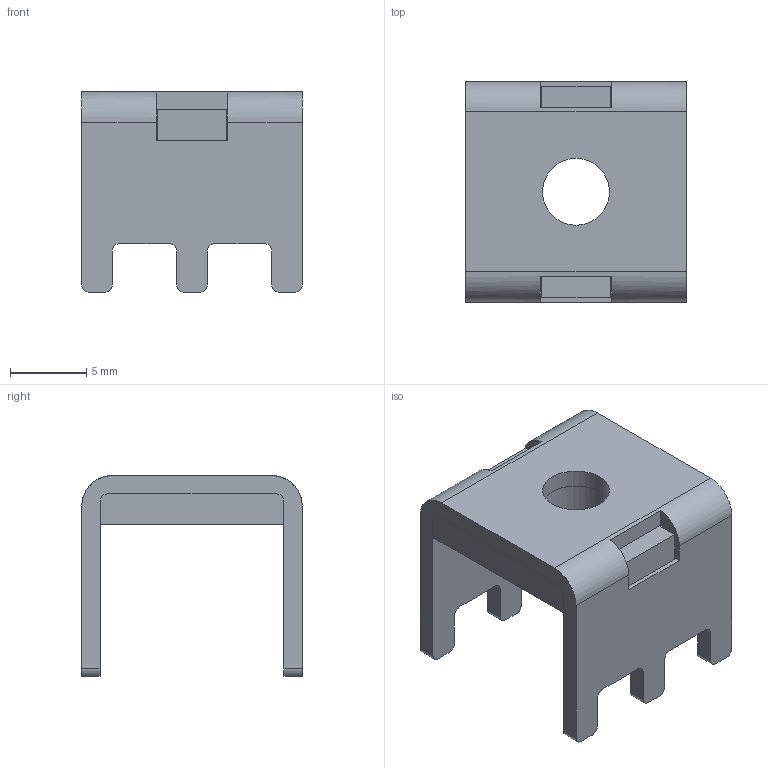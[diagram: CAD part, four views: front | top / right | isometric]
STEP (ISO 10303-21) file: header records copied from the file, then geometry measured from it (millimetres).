
FILE_DESCRIPTION(/* description */ (''),/* implementation_level */ '2;1');
FILE_NAME(/* name */ '14.5x14.5料厚1.2铁板高10.0mm脚长3.2mm.stp',/* time_stamp */ '2025-06-27T16:03:14+08:00',/* author */ (''),/* organization */ (''),/* preprocessor_version */ 'ST-DEVELOPER v16',/* originating_system */ 'SIEMENS PLM Software NX 10.0',/* authorisation */ '');
FILE_SCHEMA (('AP203_CONFIGURATION_CONTROLLED_3D_DESIGN_OF_MECHANICAL_PARTS_AND_ASSEMBLIES_MIM_LF { 1 0 10303 403 2 1 2}'));
Length unit declared in the file: millimetre
Products named in the file (1): Admi2ABC7C88fy24
Bounding box: 14.5 x 14.5 x 13.2 mm (x, y, z)
Volume: 864.2 mm3; surface area: 1563 mm2
Topology: 2 solids, 2 shells, 80 faces, 237 edges, 157 vertices
Faces by surface type: plane 48, cylinder 32
Full cylindrical faces by diameter (mm): 4.4 x2
Entity records: 2772 total; most frequent: CARTESIAN_POINT 471, ORIENTED_EDGE 468, DIRECTION 464, EDGE_CURVE 234, LINE 166, VECTOR 166, VERTEX_POINT 156, AXIS2_PLACEMENT_3D 149
